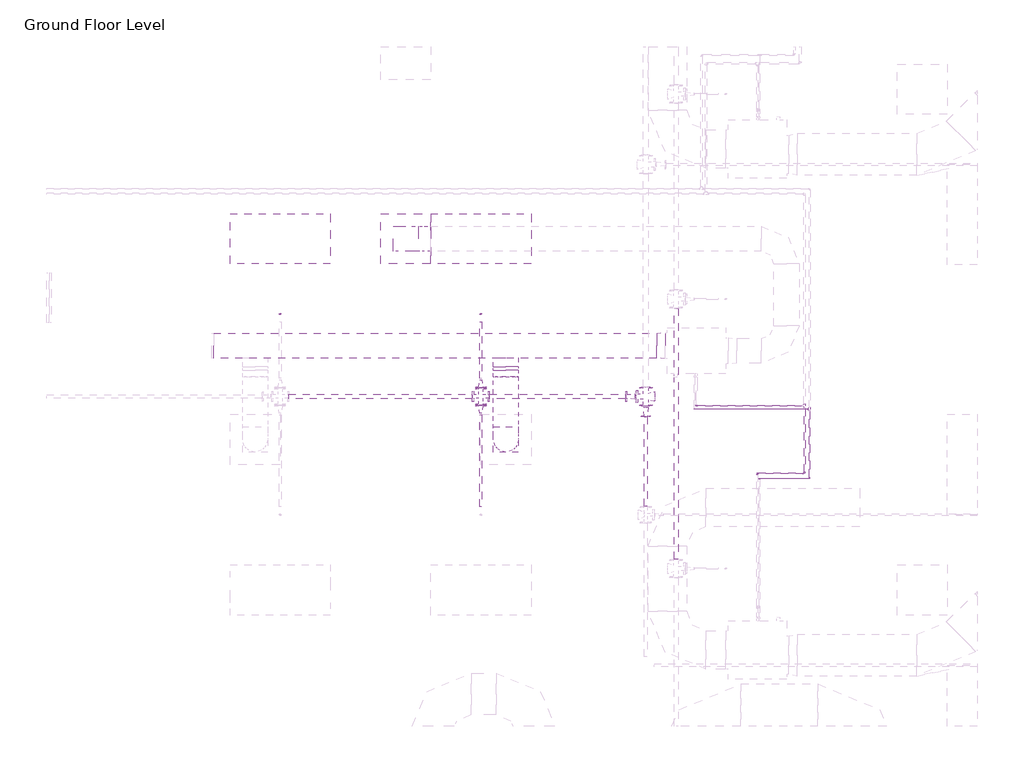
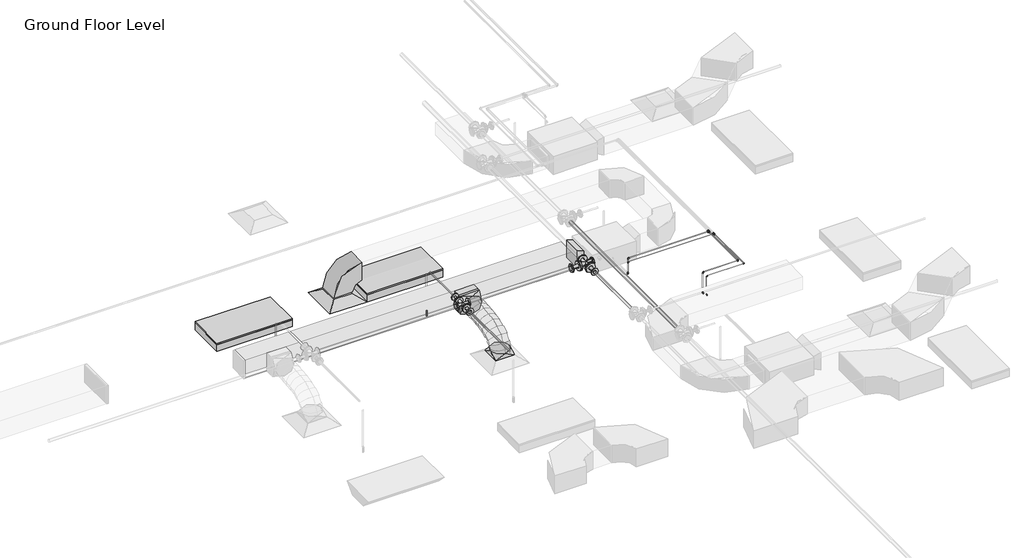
# One storey, part 35 of 74: 19 pipe fittings, 18 pipe segments, 5 duct fittings, 4 duct segments, 2 fire suppression terminals, 2 light fixtures, 1 air terminal.
"""IFC4 building model written with IfcOpenShell, lengths in millimetres."""

from ifc_helpers import new_model, si_unit, point, frame, frame_2d, origin, place, context, project, spatial, polyline, circle_curve, ellipse_curve, trimmed, segment, composite_curve, outline, extrude, transform, mapped, element, save
from ifc_brep_helpers import plane_surface, cylinder_surface, advanced_brep
from components import m_return_diffuser_600_x_600_face_300_x_300_connection_ff221211, m_rectangular_elbow_radius_1_w_618da153, m_rectangular_takeoff_standard_cb0ccb98, m_rectangular_transition_angle_45_degree_da897c11, m_rectangular_to_round_transition_angle_45_degree_641efff0, m_sprinkler_dry_pendent_hosted_15_mm_dry_pendent_9bda8e11, m_troffer_light_parabolic_rectangular1_0600x1200mm_4_lamp_86473d4a, m_cross_flanged_cs_class_150_standard_fc817054, m_elbow_generic_standard_a088f956, m_elbow_generic_standard_2a704253, m_reducer_flanged_cs_class_150_standard_3ab32b2b, m_reducer_flanged_cs_class_150_standard_a7631c35, m_reducer_flanged_cs_class_150_standard_dc68ad9d, m_tee_generic_standard_5b2ed4d4, m_tee_generic_standard_5078887e, m_tee_round_base_flanged_cs_class_150_standard_dd767e04, m_transition_generic_standard_bdcfe2c1

model = new_model("IFC4")

# Units and contexts
model_context = context("Model", 3, world=origin())
ifc_project = project(units=[si_unit("LENGTHUNIT", "METRE", prefix="MILLI")], contexts=[model_context])

# Site, building, storey
site = spatial("IfcSite", under=ifc_project)
building = spatial("IfcBuilding", under=site)
storey = spatial("IfcBuildingStorey", under=building, Name="Ground Floor Level", Elevation=900.0)

# Air terminal
placement = place(None, origin())
m_return_diffuser_600_x_600_face_300_x_300_connection_shape = m_return_diffuser_600_x_600_face_300_x_300_connection_ff221211(model_context)
element("IfcAirTerminal", 1, ObjectType="M_Return Diffuser : 600 x 600 Face 300 x 300 Connection", at=placement, inside=storey, context=model_context, shape_type="MappedRepresentation", body=[
    mapped(m_return_diffuser_600_x_600_face_300_x_300_connection_shape, transform((2762.7672395, -1064.7846466, 3650.0), x_axis=(1.0, 0.0, 0.0), y_axis=(0.0, 1.0, 0.0), z_axis=(0.0, 0.0, 1.0))),
])

# Duct fittings
m_rectangular_elbow_radius_1_w_shape = m_rectangular_elbow_radius_1_w_618da153(model_context)
element("IfcDuctFitting", 2, ObjectType="M_Rectangular Elbow - Radius : 1 W", at=placement, inside=storey, context=model_context, shape_type="MappedRepresentation", body=[
    mapped(m_rectangular_elbow_radius_1_w_shape, transform((2762.7672395, -1064.7846466, 4075.2874667), x_axis=(0.0, 0.0, 1.0), y_axis=(1.0, 0.0, 0.0), z_axis=(0.0, 1.0, 0.0))),
])
m_rectangular_takeoff_standard_shape = m_rectangular_takeoff_standard_cb0ccb98(model_context)
element("IfcDuctFitting", 3, ObjectType="M_Rectangular Takeoff : Standard", at=placement, inside=storey, context=model_context, shape_type="MappedRepresentation", body=[
    mapped(m_rectangular_takeoff_standard_shape, transform((3962.7672395, -2491.7438478, 4099.9957364), x_axis=(0.0, -1.0, 0.0), y_axis=(-1.0, 0.0, 0.0), z_axis=(0.0, 0.0, -1.0))),
])
m_rectangular_transition_angle_45_degree_shape = m_rectangular_transition_angle_45_degree_da897c11(model_context)
element("IfcDuctFitting", 4, ObjectType="M_Rectangular Transition - Angle : 45 Degree", at=placement, inside=storey, context=model_context, shape_type="MappedRepresentation", body=[
    mapped(m_rectangular_transition_angle_45_degree_shape, transform((5868.0139492, -2341.7438478, 4099.9999667), x_axis=(-1.0, 0.0, 0.0), y_axis=(0.0, -1.0, 0.0), z_axis=(0.0, 0.0, 1.0))),
])
m_rectangular_to_round_transition_angle_45_degree_shape = m_rectangular_to_round_transition_angle_45_degree_641efff0(model_context)
element("IfcDuctFitting", 5, ObjectType="M_Rectangular to Round Transition - Angle : 45 Degree", at=placement, inside=storey, context=model_context, shape_type="MappedRepresentation", body=[
    mapped(m_rectangular_to_round_transition_angle_45_degree_shape, transform((3962.7672395, -3464.7846466, 3751.6), x_axis=(0.0, 0.0, 1.0), y_axis=(-1.0, 0.0, 0.0), z_axis=(0.0, -1.0, 0.0))),
])
element("IfcDuctFitting", 6, ObjectType="M_Rectangular to Round Transition - Angle : 45 Degree", at=placement, inside=storey, context=model_context, shape_type="MappedRepresentation", body=[
    mapped(m_rectangular_to_round_transition_angle_45_degree_shape, transform((3962.7672395, -2637.4444518, 4099.9957364), x_axis=(0.0, -1.0, 0.0), y_axis=(1.0, 0.0, 0.0), z_axis=(0.0, 0.0, 1.0))),
])

# Duct segments
element("IfcDuctSegment", 7, ObjectType="Flex - Round", at=placement, inside=storey, context=model_context, shape_type="AdvancedBrep", body=[
    advanced_brep(
    [(4112.7672395, -3464.7846466, 3826.6), (3962.7672395, -3614.7846466, 3826.6), (3812.7672395, -3464.7846466, 3826.6), (3962.7672395, -3314.7846466, 3826.6), (4112.7672395, -3464.7846466, 3857.9378904), (3962.7672395, -3614.7846466, 3883.5813314), (3812.7672395, -3464.7846466, 3857.9378904), (3962.7672395, -3314.7846466, 3832.2944494), (4112.7672395, -3447.7685958, 3906.2506506), (3962.7672395, -3581.5063062, 3978.066738), (3812.7672395, -3447.7685958, 3906.2506506), (3962.7672395, -3314.0308854, 3834.4345631), (4112.7672395, -3400.5843936, 3968.711118), (3962.7672395, -3504.7895631, 4079.6211441), (3812.7672395, -3400.5843936, 3968.711118), (3962.7672395, -3296.3792241, 3857.8010918), (4112.7672395, -3329.0279651, 4016.0693364), (3962.7672395, -3397.9608708, 4150.3236185), (3812.7672395, -3329.0279651, 4016.0693364), (3962.7672395, -3260.0950595, 3881.8150544), (4112.7672395, -3238.8952355, 4050.4132402), (3962.7672395, -3282.4547417, 4194.3357259), (3812.7672395, -3238.8952355, 4050.4132402), (3962.7672395, -3195.3357294, 3906.4907544), (4112.7672395, -3135.98213, 4073.8307635), (3962.7672395, -3162.5418624, 4221.6214893), (3812.7672395, -3135.98213, 4073.8307635), (3962.7672395, -3109.4223976, 3926.0400376), (4112.7672395, -3026.0845737, 4088.4098405), (3962.7672395, -3041.2344403, 4237.7142061), (3812.7672395, -3026.0845737, 4088.4098405), (3962.7672395, -3010.934707, 3939.1054749), (4112.7672395, -2914.9984918, 4096.2384055), (3962.7672395, -2922.5030142, 4246.0815611), (3812.7672395, -2914.9984918, 4096.2384055), (3962.7672395, -2907.4939693, 3946.3952499), (4112.7672395, -2808.5198094, 4099.4043927), (3962.7672395, -2811.210829, 4249.3906708), (3812.7672395, -2808.5198094, 4099.4043927), (3962.7672395, -2805.8287898, 3949.4181147), (4112.7672395, -2712.4444518, 4099.9957364), (3962.7672395, -2711.5212194, 3949.9985777), (3812.7672395, -2712.4444518, 4099.9957364), (3962.7672395, -2713.3676841, 4249.9928952)],
    [
        (0, 1, circle_curve(frame((3962.7672395, -3464.7846466, 3826.6), z_axis=(0.0, 0.0, -1.0), x_axis=(1.0, 0.0, 0.0)), 150.0)),
        (1, 2, circle_curve(frame((3962.7672395, -3464.7846466, 3826.6), z_axis=(0.0, 0.0, -1.0), x_axis=(1.0, 0.0, 0.0)), 150.0)),
        (2, 3, circle_curve(frame((3962.7672395, -3464.7846466, 3826.6), z_axis=(0.0, 0.0, -1.0), x_axis=(1.0, 0.0, 0.0)), 150.0)),
        (3, 0, circle_curve(frame((3962.7672395, -3464.7846466, 3826.6), z_axis=(0.0, 0.0, -1.0), x_axis=(1.0, 0.0, 0.0)), 150.0)),
        (0, 4),
        (4, 5, ellipse_curve(frame((3962.7672395, -3464.7846466, 3857.9378904), z_axis=(0.0, -0.1685115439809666, -0.9856996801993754), x_axis=(0.0, 0.9856996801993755, -0.1685115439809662)), 152.1761679, 150.0)),
        (5, 1),
        (5, 6, ellipse_curve(frame((3962.7672395, -3464.7846466, 3857.9378904), z_axis=(0.0, -0.1685115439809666, -0.9856996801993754), x_axis=(0.0, 0.9856996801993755, -0.1685115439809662)), 152.1761679, 150.0)),
        (6, 2),
        (6, 7, ellipse_curve(frame((3962.7672395, -3464.7846466, 3857.9378904), z_axis=(0.0, -0.1685115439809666, -0.9856996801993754), x_axis=(0.0, 0.9856996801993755, -0.1685115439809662)), 152.1761679, 150.0)),
        (7, 3),
        (7, 4, ellipse_curve(frame((3962.7672395, -3464.7846466, 3857.9378904), z_axis=(0.0, -0.1685115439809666, -0.9856996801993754), x_axis=(0.0, 0.9856996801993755, -0.1685115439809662)), 152.1761679, 150.0)),
        (4, 8),
        (8, 9, ellipse_curve(frame((3962.7672395, -3447.7685958, 3906.2506506), z_axis=(0.0, -0.4730958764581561, -0.8810109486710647), x_axis=(0.0, 0.8810109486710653, -0.4730958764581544)), 151.800282, 150.0)),
        (9, 5),
        (9, 10, ellipse_curve(frame((3962.7672395, -3447.7685958, 3906.2506506), z_axis=(0.0, -0.4730958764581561, -0.8810109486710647), x_axis=(0.0, 0.8810109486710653, -0.4730958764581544)), 151.800282, 150.0)),
        (10, 6),
        (10, 11, ellipse_curve(frame((3962.7672395, -3447.7685958, 3906.2506506), z_axis=(0.0, -0.4730958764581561, -0.8810109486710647), x_axis=(0.0, 0.8810109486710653, -0.4730958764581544)), 151.800282, 150.0)),
        (11, 7),
        (11, 8, ellipse_curve(frame((3962.7672395, -3447.7685958, 3906.2506506), z_axis=(0.0, -0.4730958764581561, -0.8810109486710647), x_axis=(0.0, 0.8810109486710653, -0.4730958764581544)), 151.800282, 150.0)),
        (8, 12),
        (12, 13, ellipse_curve(frame((3962.7672395, -3400.5843936, 3968.711118), z_axis=(0.0, -0.7287924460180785, -0.6847346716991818), x_axis=(0.0, 0.6847346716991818, -0.7287924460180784)), 152.1832818, 150.0)),
        (13, 9),
        (13, 14, ellipse_curve(frame((3962.7672395, -3400.5843936, 3968.711118), z_axis=(0.0, -0.7287924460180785, -0.6847346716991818), x_axis=(0.0, 0.6847346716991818, -0.7287924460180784)), 152.1832818, 150.0)),
        (14, 10),
        (14, 15, ellipse_curve(frame((3962.7672395, -3400.5843936, 3968.711118), z_axis=(0.0, -0.7287924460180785, -0.6847346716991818), x_axis=(0.0, 0.6847346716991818, -0.7287924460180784)), 152.1832818, 150.0)),
        (15, 11),
        (15, 12, ellipse_curve(frame((3962.7672395, -3400.5843936, 3968.711118), z_axis=(0.0, -0.7287924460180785, -0.6847346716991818), x_axis=(0.0, 0.6847346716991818, -0.7287924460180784)), 152.1832818, 150.0)),
        (12, 16),
        (16, 17, ellipse_curve(frame((3962.7672395, -3329.0279651, 4016.0693364), z_axis=(0.0, -0.8895898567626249, -0.45676020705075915), x_axis=(0.0, 0.45676020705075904, -0.889589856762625)), 150.9170558, 150.0)),
        (17, 13),
        (17, 18, ellipse_curve(frame((3962.7672395, -3329.0279651, 4016.0693364), z_axis=(0.0, -0.8895898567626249, -0.45676020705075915), x_axis=(0.0, 0.45676020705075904, -0.889589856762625)), 150.9170558, 150.0)),
        (18, 14),
        (18, 19, ellipse_curve(frame((3962.7672395, -3329.0279651, 4016.0693364), z_axis=(0.0, -0.8895898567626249, -0.45676020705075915), x_axis=(0.0, 0.45676020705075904, -0.889589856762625)), 150.9170558, 150.0)),
        (19, 15),
        (19, 16, ellipse_curve(frame((3962.7672395, -3329.0279651, 4016.0693364), z_axis=(0.0, -0.8895898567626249, -0.45676020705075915), x_axis=(0.0, 0.45676020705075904, -0.889589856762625)), 150.9170558, 150.0)),
        (16, 20),
        (20, 21, ellipse_curve(frame((3962.7672395, -3238.8952355, 4050.4132402), z_axis=(0.0, -0.9571228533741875, -0.2896823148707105), x_axis=(0.0, 0.28968231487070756, -0.9571228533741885)), 150.3699188, 150.0)),
        (21, 17),
        (21, 22, ellipse_curve(frame((3962.7672395, -3238.8952355, 4050.4132402), z_axis=(0.0, -0.9571228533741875, -0.2896823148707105), x_axis=(0.0, 0.28968231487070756, -0.9571228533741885)), 150.3699188, 150.0)),
        (22, 18),
        (22, 23, ellipse_curve(frame((3962.7672395, -3238.8952355, 4050.4132402), z_axis=(0.0, -0.9571228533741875, -0.2896823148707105), x_axis=(0.0, 0.28968231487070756, -0.9571228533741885)), 150.3699188, 150.0)),
        (23, 19),
        (23, 20, ellipse_curve(frame((3962.7672395, -3238.8952355, 4050.4132402), z_axis=(0.0, -0.9571228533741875, -0.2896823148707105), x_axis=(0.0, 0.28968231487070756, -0.9571228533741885)), 150.3699188, 150.0)),
        (20, 24),
        (24, 25, ellipse_curve(frame((3962.7672395, -3135.98213, 4073.8307635), z_axis=(0.0, -0.984232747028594, -0.1768782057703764), x_axis=(0.0, 0.17687820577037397, -0.9842327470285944)), 150.1583099, 150.0)),
        (25, 21),
        (25, 26, ellipse_curve(frame((3962.7672395, -3135.98213, 4073.8307635), z_axis=(0.0, -0.984232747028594, -0.1768782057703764), x_axis=(0.0, 0.17687820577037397, -0.9842327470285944)), 150.1583099, 150.0)),
        (26, 22),
        (26, 27, ellipse_curve(frame((3962.7672395, -3135.98213, 4073.8307635), z_axis=(0.0, -0.984232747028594, -0.1768782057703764), x_axis=(0.0, 0.17687820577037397, -0.9842327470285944)), 150.1583099, 150.0)),
        (27, 23),
        (27, 24, ellipse_curve(frame((3962.7672395, -3135.98213, 4073.8307635), z_axis=(0.0, -0.984232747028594, -0.1768782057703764), x_axis=(0.0, 0.17687820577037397, -0.9842327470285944)), 150.1583099, 150.0)),
        (24, 28),
        (28, 29, ellipse_curve(frame((3962.7672395, -3026.0845737, 4088.4098405), z_axis=(0.0, -0.9948913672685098, -0.10095131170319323), x_axis=(0.0, 0.10095131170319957, -0.994891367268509)), 150.0710233, 150.0)),
        (29, 25),
        (29, 30, ellipse_curve(frame((3962.7672395, -3026.0845737, 4088.4098405), z_axis=(0.0, -0.9948913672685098, -0.10095131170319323), x_axis=(0.0, 0.10095131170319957, -0.994891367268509)), 150.0710233, 150.0)),
        (30, 26),
        (30, 31, ellipse_curve(frame((3962.7672395, -3026.0845737, 4088.4098405), z_axis=(0.0, -0.9948913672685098, -0.10095131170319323), x_axis=(0.0, 0.10095131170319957, -0.994891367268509)), 150.0710233, 150.0)),
        (31, 27),
        (31, 28, ellipse_curve(frame((3962.7672395, -3026.0845737, 4088.4098405), z_axis=(0.0, -0.9948913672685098, -0.10095131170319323), x_axis=(0.0, 0.10095131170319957, -0.994891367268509)), 150.0710233, 150.0)),
        (28, 32),
        (32, 33, ellipse_curve(frame((3962.7672395, -2914.9984918, 4096.2384055), z_axis=(0.0, -0.9987482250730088, -0.050019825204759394), x_axis=(0.0, 0.05001982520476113, -0.9987482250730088)), 150.0309606, 150.0)),
        (33, 29),
        (33, 34, ellipse_curve(frame((3962.7672395, -2914.9984918, 4096.2384055), z_axis=(0.0, -0.9987482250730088, -0.050019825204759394), x_axis=(0.0, 0.05001982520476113, -0.9987482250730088)), 150.0309606, 150.0)),
        (34, 30),
        (34, 35, ellipse_curve(frame((3962.7672395, -2914.9984918, 4096.2384055), z_axis=(0.0, -0.9987482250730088, -0.050019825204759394), x_axis=(0.0, 0.05001982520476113, -0.9987482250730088)), 150.0309606, 150.0)),
        (35, 31),
        (35, 32, ellipse_curve(frame((3962.7672395, -2914.9984918, 4096.2384055), z_axis=(0.0, -0.9987482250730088, -0.050019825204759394), x_axis=(0.0, 0.05001982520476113, -0.9987482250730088)), 150.0309606, 150.0)),
        (32, 36),
        (36, 37, ellipse_curve(frame((3962.7672395, -2808.5198094, 4099.4043927), z_axis=(0.0, -0.9998390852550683, -0.01793888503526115), x_axis=(0.0, 0.017938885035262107, -0.9998390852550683)), 150.0104169, 150.0)),
        (37, 33),
        (37, 38, ellipse_curve(frame((3962.7672395, -2808.5198094, 4099.4043927), z_axis=(0.0, -0.9998390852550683, -0.01793888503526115), x_axis=(0.0, 0.017938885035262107, -0.9998390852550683)), 150.0104169, 150.0)),
        (38, 34),
        (38, 39, ellipse_curve(frame((3962.7672395, -2808.5198094, 4099.4043927), z_axis=(0.0, -0.9998390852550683, -0.01793888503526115), x_axis=(0.0, 0.017938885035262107, -0.9998390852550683)), 150.0104169, 150.0)),
        (39, 35),
        (39, 36, ellipse_curve(frame((3962.7672395, -2808.5198094, 4099.4043927), z_axis=(0.0, -0.9998390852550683, -0.01793888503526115), x_axis=(0.0, 0.017938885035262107, -0.9998390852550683)), 150.0104169, 150.0)),
        (40, 41, circle_curve(frame((3962.7672395, -2712.4444518, 4099.9957364), z_axis=(0.0, 0.9999810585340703, 0.006154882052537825), x_axis=(1.0, 0.0, 0.0)), 150.0)),
        (41, 42, circle_curve(frame((3962.7672395, -2712.4444518, 4099.9957364), z_axis=(0.0, 0.9999810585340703, 0.006154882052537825), x_axis=(1.0, 0.0, 0.0)), 150.0)),
        (42, 43, circle_curve(frame((3962.7672395, -2712.4444518, 4099.9957364), z_axis=(0.0, 0.9999810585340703, 0.006154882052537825), x_axis=(1.0, 0.0, 0.0)), 150.0)),
        (43, 40, circle_curve(frame((3962.7672395, -2712.4444518, 4099.9957364), z_axis=(0.0, 0.9999810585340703, 0.006154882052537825), x_axis=(1.0, 0.0, 0.0)), 150.0)),
        (36, 40),
        (43, 37),
        (42, 38),
        (41, 39),
    ],
    [
        plane_surface(frame((3962.7672395, -3614.7846466, 3826.6), z_axis=(0.0, 0.0, -1.0), x_axis=(1.0, 0.0, 0.0))),
        cylinder_surface(frame((3962.7672395, -3464.7846466, 3826.6), z_axis=(0.0, 0.0, -1.0), x_axis=(1.0, 0.0, 0.0)), 150.0),
        cylinder_surface(frame((3962.7672395, -3464.7846466, 3857.9378904), z_axis=(0.0, -0.3322035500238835, -0.9432077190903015), x_axis=(1.0, 0.0, 0.0)), 150.0),
        cylinder_surface(frame((3962.7672395, -3447.7685958, 3906.2506506), z_axis=(0.0, -0.6027668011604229, -0.7979174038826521), x_axis=(1.0, 0.0, 0.0)), 150.0),
        cylinder_surface(frame((3962.7672395, -3400.5843936, 3968.711118), z_axis=(0.0, -0.8339069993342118, -0.5519049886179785), x_axis=(1.0, 0.0, 0.0)), 150.0),
        cylinder_surface(frame((3962.7672395, -3329.0279651, 4016.0693364), z_axis=(0.0, -0.9344614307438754, -0.35606436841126), x_axis=(1.0, 0.0, 0.0)), 150.0),
        cylinder_surface(frame((3962.7672395, -3238.8952355, 4050.4132402), z_axis=(0.0, -0.9750751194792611, -0.22187499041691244), x_axis=(1.0, 0.0, 0.0)), 150.0),
        cylinder_surface(frame((3962.7672395, -3135.98213, 4073.8307635), z_axis=(0.0, -0.9913150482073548, -0.1315084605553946), x_axis=(1.0, 0.0, 0.0)), 150.0),
        cylinder_surface(frame((3962.7672395, -3026.0845737, 4088.4098405), z_axis=(0.0, -0.9975259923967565, -0.07029860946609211), x_axis=(1.0, 0.0, 0.0)), 150.0),
        cylinder_surface(frame((3962.7672395, -2914.9984918, 4096.2384055), z_axis=(0.0, -0.9995582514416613, -0.029720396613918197), x_axis=(1.0, 0.0, 0.0)), 150.0),
        plane_surface(frame((3962.7672395, -2713.3676841, 4249.9928952), z_axis=(0.0, 0.9999810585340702, 0.006154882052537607), x_axis=(1.0, 0.0, 0.0))),
        cylinder_surface(frame((3962.7672395, -2808.5198094, 4099.4043927), z_axis=(0.0, -0.9999810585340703, -0.006154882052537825), x_axis=(1.0, 0.0, 0.0)), 150.0),
    ],
    [
        (0, [[1, 2, 3, 4]]),
        (1, [[-1, 5, 6, 7]]),
        (1, [[-2, -7, 8, 9]]),
        (1, [[-3, -9, 10, 11]]),
        (1, [[-4, -11, 12, -5]]),
        (2, [[-6, 13, 14, 15]]),
        (2, [[-8, -15, 16, 17]]),
        (2, [[-10, -17, 18, 19]]),
        (2, [[-12, -19, 20, -13]]),
        (3, [[-14, 21, 22, 23]]),
        (3, [[-16, -23, 24, 25]]),
        (3, [[-18, -25, 26, 27]]),
        (3, [[-20, -27, 28, -21]]),
        (4, [[-22, 29, 30, 31]]),
        (4, [[-24, -31, 32, 33]]),
        (4, [[-26, -33, 34, 35]]),
        (4, [[-28, -35, 36, -29]]),
        (5, [[-30, 37, 38, 39]]),
        (5, [[-32, -39, 40, 41]]),
        (5, [[-34, -41, 42, 43]]),
        (5, [[-36, -43, 44, -37]]),
        (6, [[-38, 45, 46, 47]]),
        (6, [[-40, -47, 48, 49]]),
        (6, [[-42, -49, 50, 51]]),
        (6, [[-44, -51, 52, -45]]),
        (7, [[-46, 53, 54, 55]]),
        (7, [[-48, -55, 56, 57]]),
        (7, [[-50, -57, 58, 59]]),
        (7, [[-52, -59, 60, -53]]),
        (8, [[-54, 61, 62, 63]]),
        (8, [[-56, -63, 64, 65]]),
        (8, [[-58, -65, 66, 67]]),
        (8, [[-60, -67, 68, -61]]),
        (9, [[-62, 69, 70, 71]]),
        (9, [[-64, -71, 72, 73]]),
        (9, [[-66, -73, 74, 75]]),
        (9, [[-68, -75, 76, -69]]),
        (10, [[77, 78, 79, 80]]),
        (11, [[-70, 81, -80, 82]]),
        (11, [[-72, -82, -79, 83]]),
        (11, [[-74, -83, -78, 84]]),
        (11, [[-76, -84, -77, -81]]),
    ],
),
])
element("IfcDuctSegment", 8, ObjectType="Radius Elbows / Taps", at=placement, inside=storey, context=model_context, shape_type="SweptSolid", body=[
    extrude(outline(polyline([(2912.7672395, -914.7846466), (2912.7672395, -1214.7846466), (2612.7672395, -1214.7846466), (2612.7672395, -914.7846466), (2912.7672395, -914.7846466)])), frame((0.0, 0.0, 3751.6), z_axis=(0.0, 0.0, 1.0), x_axis=(1.0, 0.0, 0.0)), (0.0, 0.0, 1.0), 23.6874667),
])
element("IfcDuctSegment", 9, ObjectType="Radius Elbows / Taps", at=placement, inside=storey, context=model_context, shape_type="SweptSolid", body=[
    extrude(outline(polyline([(0.0, -300.0), (0.0, 0.0), (5296.5207712, 0.0), (5296.5207712, -300.0), (0.0, -300.0)])), frame((5764.5350754, -2491.7438478, 3950.0), z_axis=(-2.366321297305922e-06, 0.0, 0.9999999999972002), x_axis=(-0.9999999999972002, 0.0, -2.366321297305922e-06)), (0.0, 0.0, 1.0), 300.0),
])
element("IfcDuctSegment", 10, ObjectType="Radius Elbows / Taps", at=placement, inside=storey, context=model_context, shape_type="SweptSolid", body=[
    extrude(outline(polyline([(3812.7672395, -2593.3438478), (4112.7672395, -2593.3438478), (4112.7672395, -2637.4444518), (3812.7672395, -2637.4444518), (3812.7672395, -2593.3438478)])), frame((0.0, 0.0, 3949.9957364), z_axis=(0.0, 0.0, 1.0), x_axis=(1.0, 0.0, 0.0)), (0.0, 0.0, 1.0), 300.0),
])

# Fire suppression terminals
m_sprinkler_dry_pendent_hosted_15_mm_dry_pendent_shape = m_sprinkler_dry_pendent_hosted_15_mm_dry_pendent_9bda8e11(model_context)
element("IfcFireSuppressionTerminal", 11, ObjectType="M_Sprinkler - Dry - Pendent - Hosted : 15 mm Dry Pendent", at=placement, inside=storey, context=model_context, shape_type="MappedRepresentation", body=[
    mapped(m_sprinkler_dry_pendent_hosted_15_mm_dry_pendent_shape, transform((1262.7672395, -1964.7846466, 3650.0), x_axis=(1.0, 0.0, 0.0), y_axis=(0.0, -1.0, 0.0), z_axis=(0.0, 0.0, -1.0))),
])
element("IfcFireSuppressionTerminal", 12, ObjectType="M_Sprinkler - Dry - Pendent - Hosted : 15 mm Dry Pendent", at=placement, inside=storey, context=model_context, shape_type="MappedRepresentation", body=[
    mapped(m_sprinkler_dry_pendent_hosted_15_mm_dry_pendent_shape, transform((3662.7672395, -1964.7846466, 3650.0), x_axis=(1.0, 0.0, 0.0), y_axis=(0.0, -1.0, 0.0), z_axis=(0.0, 0.0, -1.0))),
])

# Light fixtures
m_troffer_light_parabolic_rectangular1_0600x1200mm_4_lamp_shape = m_troffer_light_parabolic_rectangular1_0600x1200mm_4_lamp_86473d4a(model_context)
element("IfcLightFixture", 13, ObjectType="M_Troffer Light - Parabolic Rectangular1 : 0600x1200mm(4 Lamp) - 277V 2", at=placement, inside=storey, context=model_context, shape_type="MappedRepresentation", body=[
    mapped(m_troffer_light_parabolic_rectangular1_0600x1200mm_4_lamp_shape, transform((3681.4707411, -1005.3187145, 3650.0), x_axis=(1.0, 0.0, 0.0), y_axis=(0.0, 1.0, 0.0), z_axis=(0.0, 0.0, 1.0))),
])
element("IfcLightFixture", 14, ObjectType="M_Troffer Light - Parabolic Rectangular1 : 0600x1200mm(4 Lamp) - 277V 2", at=placement, inside=storey, context=model_context, shape_type="MappedRepresentation", body=[
    mapped(m_troffer_light_parabolic_rectangular1_0600x1200mm_4_lamp_shape, transform((1281.4707411, -1005.3187145, 3650.0), x_axis=(1.0, 0.0, 0.0), y_axis=(0.0, 1.0, 0.0), z_axis=(0.0, 0.0, 1.0))),
])

# Pipe fittings
m_cross_flanged_cs_class_150_standard_shape = m_cross_flanged_cs_class_150_standard_fc817054(model_context)
element("IfcPipeFitting", 15, ObjectType="M_Cross - Flanged - CS - Class 150 : Standard", at=placement, inside=storey, context=model_context, shape_type="MappedRepresentation", body=[
    mapped(m_cross_flanged_cs_class_150_standard_shape, transform((3662.7672395, -2950.3491993, 4360.0), x_axis=(1.0, 0.0, 0.0), y_axis=(0.0, -1.0, 0.0), z_axis=(0.0, 0.0, -1.0))),
])
m_elbow_generic_standard_shape = m_elbow_generic_standard_a088f956(model_context)
element("IfcPipeFitting", 16, ObjectType="M_Elbow - Generic : Standard", at=placement, inside=storey, context=model_context, shape_type="MappedRepresentation", body=[
    mapped(m_elbow_generic_standard_shape, transform((7534.4307053, -3869.9099051, 4300.0), x_axis=(1.0, 0.0, 0.0), y_axis=(0.0, 1.0, 0.0), z_axis=(0.0, 0.0, 1.0))),
])
element("IfcPipeFitting", 17, ObjectType="M_Elbow - Generic : Standard", at=placement, inside=storey, context=model_context, shape_type="MappedRepresentation", body=[
    mapped(m_elbow_generic_standard_shape, transform((6968.8139492, -3869.9099051, 4300.0), x_axis=(-1.0, 0.0, 0.0), y_axis=(0.0, 0.0, -1.0), z_axis=(0.0, -1.0, 0.0))),
])
element("IfcPipeFitting", 18, ObjectType="M_Elbow - Generic : Standard", at=placement, inside=storey, context=model_context, shape_type="MappedRepresentation", body=[
    mapped(m_elbow_generic_standard_shape, transform((6243.4139492, -3060.5124002, 4034.0874667), x_axis=(0.0, -1.0, 0.0), y_axis=(0.0, 0.0, 1.0), z_axis=(-1.0, 0.0, 0.0))),
])
element("IfcPipeFitting", 19, ObjectType="M_Elbow - Generic : Standard", at=placement, inside=storey, context=model_context, shape_type="MappedRepresentation", body=[
    mapped(m_elbow_generic_standard_shape, transform((6243.4139492, -3060.5124002, 4300.0), x_axis=(0.0, 0.0, 1.0), y_axis=(1.0, 0.0, 0.0), z_axis=(0.0, 1.0, 0.0))),
])
element("IfcPipeFitting", 20, ObjectType="M_Elbow - Generic : Standard", at=placement, inside=storey, context=model_context, shape_type="MappedRepresentation", body=[
    mapped(m_elbow_generic_standard_shape, transform((6968.8139492, -3869.9099051, 3950.0), x_axis=(0.0, 0.0, -1.0), y_axis=(0.0, -1.0, 0.0), z_axis=(-1.0, 0.0, 0.0))),
])
m_elbow_generic_standard_2_shape = m_elbow_generic_standard_2a704253(model_context)
element("IfcPipeFitting", 21, ObjectType="M_Elbow - Generic : Standard", at=placement, inside=storey, context=model_context, shape_type="MappedRepresentation", body=[
    mapped(m_elbow_generic_standard_2_shape, transform((7594.4307053, -3931.9012458, 4265.0), x_axis=(1.0, 0.0, 0.0), y_axis=(0.0, 1.0, 0.0), z_axis=(0.0, 0.0, 1.0))),
])
element("IfcPipeFitting", 22, ObjectType="M_Elbow - Generic : Standard", at=placement, inside=storey, context=model_context, shape_type="MappedRepresentation", body=[
    mapped(m_elbow_generic_standard_2_shape, transform((6993.8139492, -3931.9012458, 4265.0), x_axis=(-1.0, 0.0, 0.0), y_axis=(0.0, 0.0, -1.0), z_axis=(0.0, -1.0, 0.0))),
])
element("IfcPipeFitting", 23, ObjectType="M_Elbow - Generic : Standard", at=placement, inside=storey, context=model_context, shape_type="MappedRepresentation", body=[
    mapped(m_elbow_generic_standard_2_shape, transform((6218.4139492, -3100.3969173, 4084.8874667), x_axis=(0.0, -1.0, 0.0), y_axis=(0.0, 0.0, 1.0), z_axis=(-1.0, 0.0, 0.0))),
])
element("IfcPipeFitting", 24, ObjectType="M_Elbow - Generic : Standard", at=placement, inside=storey, context=model_context, shape_type="MappedRepresentation", body=[
    mapped(m_elbow_generic_standard_2_shape, transform((6218.4139492, -3100.3969173, 4265.0), x_axis=(0.0, 0.0, 1.0), y_axis=(1.0, 0.0, 0.0), z_axis=(0.0, 1.0, 0.0))),
])
element("IfcPipeFitting", 25, ObjectType="M_Elbow - Generic : Standard", at=placement, inside=storey, context=model_context, shape_type="MappedRepresentation", body=[
    mapped(m_elbow_generic_standard_2_shape, transform((6993.8139492, -3931.9012458, 3950.0), x_axis=(0.0, 0.0, -1.0), y_axis=(0.0, -1.0, 0.0), z_axis=(-1.0, 0.0, 0.0))),
])
m_reducer_flanged_cs_class_150_standard_shape = m_reducer_flanged_cs_class_150_standard_3ab32b2b(model_context)
element("IfcPipeFitting", 26, ObjectType="M_Reducer - Flanged - CS - Class 150 : Standard", at=placement, inside=storey, context=model_context, shape_type="MappedRepresentation", body=[
    mapped(m_reducer_flanged_cs_class_150_standard_shape, transform((5521.869498, -2950.3491993, 4360.0), x_axis=(-1.0, 0.0, 0.0), y_axis=(0.0, -1.0, 0.0), z_axis=(0.0, 0.0, 1.0))),
])
m_reducer_flanged_cs_class_150_standard_2_shape = m_reducer_flanged_cs_class_150_standard_a7631c35(model_context)
element("IfcPipeFitting", 27, ObjectType="M_Reducer - Flanged - CS - Class 150 : Standard", at=placement, inside=storey, context=model_context, shape_type="MappedRepresentation", body=[
    mapped(m_reducer_flanged_cs_class_150_standard_2_shape, transform((5635.869498, -3064.3491993, 4360.0), x_axis=(0.0, -1.0, 0.0), y_axis=(1.0, 0.0, 0.0), z_axis=(0.0, 0.0, 1.0))),
])
m_reducer_flanged_cs_class_150_standard_3_shape = m_reducer_flanged_cs_class_150_standard_dc68ad9d(model_context)
element("IfcPipeFitting", 28, ObjectType="M_Reducer - Flanged - CS - Class 150 : Standard", at=placement, inside=storey, context=model_context, shape_type="MappedRepresentation", body=[
    mapped(m_reducer_flanged_cs_class_150_standard_3_shape, transform((3662.7672395, -2848.3491993, 4360.0), x_axis=(0.0, 1.0, 0.0), y_axis=(-1.0, 0.0, 0.0), z_axis=(0.0, 0.0, 1.0))),
])
element("IfcPipeFitting", 29, ObjectType="M_Reducer - Flanged - CS - Class 150 : Standard", at=placement, inside=storey, context=model_context, shape_type="MappedRepresentation", body=[
    mapped(m_reducer_flanged_cs_class_150_standard_3_shape, transform((3662.7672395, -3052.3491993, 4360.0), x_axis=(0.0, -1.0, 0.0), y_axis=(1.0, 0.0, 0.0), z_axis=(0.0, 0.0, 1.0))),
])
m_tee_generic_standard_shape = m_tee_generic_standard_5b2ed4d4(model_context)
element("IfcPipeFitting", 30, ObjectType="M_Tee - Generic : Standard", at=placement, inside=storey, context=model_context, shape_type="MappedRepresentation", body=[
    mapped(m_tee_generic_standard_shape, transform((7594.4307053, -3100.3969173, 4265.0), x_axis=(0.0, 1.0, 0.0), y_axis=(1.0, 0.0, 0.0), z_axis=(0.0, 0.0, -1.0))),
])
m_tee_generic_standard_2_shape = m_tee_generic_standard_5078887e(model_context)
element("IfcPipeFitting", 31, ObjectType="M_Tee - Generic : Standard", at=placement, inside=storey, context=model_context, shape_type="MappedRepresentation", body=[
    mapped(m_tee_generic_standard_2_shape, transform((7534.4307053, -3060.5124002, 4300.0), x_axis=(0.0, 1.0, 0.0), y_axis=(1.0, 0.0, 0.0), z_axis=(0.0, 0.0, -1.0))),
])
m_tee_round_base_flanged_cs_class_150_standard_shape = m_tee_round_base_flanged_cs_class_150_standard_dd767e04(model_context)
element("IfcPipeFitting", 32, ObjectType="M_Tee Round Base - Flanged - CS - Class 150 : Standard", at=placement, inside=storey, context=model_context, shape_type="MappedRepresentation", body=[
    mapped(m_tee_round_base_flanged_cs_class_150_standard_shape, transform((5635.869498, -2950.3491993, 4360.0), x_axis=(0.0, 1.0, 0.0), y_axis=(1.0, 0.0, 0.0), z_axis=(0.0, 0.0, -1.0))),
])
m_transition_generic_standard_shape = m_transition_generic_standard_bdcfe2c1(model_context)
element("IfcPipeFitting", 33, ObjectType="M_Transition - Generic : Standard", at=placement, inside=storey, context=model_context, shape_type="MappedRepresentation", body=[
    mapped(m_transition_generic_standard_shape, transform((7573.7932053, -3100.3969173, 4265.0), x_axis=(-1.0, 0.0, 0.0), y_axis=(0.0, -1.0, 0.0), z_axis=(0.0, 0.0, 1.0))),
])

# Pipe segments
element("IfcPipeSegment", 34, ObjectType="Copper", at=placement, inside=storey, context=model_context, shape_type="SweptSolid", body=[
    extrude(outline(composite_curve([segment(trimmed(circle_curve(frame_2d((-3931.9012458, 4265.0)), 3.35), [point((-3928.5512458, 4265.0))], [point((-3931.9012458, 4261.65))], False, "CARTESIAN"), True, "CONTINUOUS"), segment(trimmed(circle_curve(frame_2d((-3931.9012458, 4265.0)), 3.35), [point((-3931.9012458, 4261.65))], [point((-3935.2512458, 4265.0))], False, "CARTESIAN"), True, "CONTINUOUS"), segment(trimmed(circle_curve(frame_2d((-3931.9012458, 4265.0)), 3.35), [point((-3935.2512458, 4265.0))], [point((-3931.9012458, 4268.35))], False, "CARTESIAN"), True, "CONTINUOUS"), segment(trimmed(circle_curve(frame_2d((-3931.9012458, 4265.0)), 3.35), [point((-3931.9012458, 4268.35))], [point((-3928.5512458, 4265.0))], False, "CARTESIAN"), True, "CONTINUOUS")], self_intersect=False)), frame((7004.9514492, 0.0, 0.0), z_axis=(1.0, 0.0, 0.0), x_axis=(0.0, 1.0, 0.0)), (0.0, 0.0, 1.0), 578.341756),
])
element("IfcPipeSegment", 35, ObjectType="Copper", at=placement, inside=storey, context=model_context, shape_type="SweptSolid", body=[
    extrude(outline(composite_curve([segment(trimmed(circle_curve(frame_2d((-3869.9099051, 4300.0)), 6.5), [point((-3863.4099051, 4300.0))], [point((-3869.9099051, 4293.5))], False, "CARTESIAN"), True, "CONTINUOUS"), segment(trimmed(circle_curve(frame_2d((-3869.9099051, 4300.0)), 6.5), [point((-3869.9099051, 4293.5))], [point((-3876.4099051, 4300.0))], False, "CARTESIAN"), True, "CONTINUOUS"), segment(trimmed(circle_curve(frame_2d((-3869.9099051, 4300.0)), 6.5), [point((-3876.4099051, 4300.0))], [point((-3869.9099051, 4306.5))], False, "CARTESIAN"), True, "CONTINUOUS"), segment(trimmed(circle_curve(frame_2d((-3869.9099051, 4300.0)), 6.5), [point((-3869.9099051, 4306.5))], [point((-3863.4099051, 4300.0))], False, "CARTESIAN"), True, "CONTINUOUS")], self_intersect=False)), frame((6983.1014492, 0.0, 0.0), z_axis=(1.0, 0.0, 0.0), x_axis=(0.0, 1.0, 0.0)), (0.0, 0.0, 1.0), 537.041756),
])
element("IfcPipeSegment", 36, ObjectType="Copper", at=placement, inside=storey, context=model_context, shape_type="SweptSolid", body=[
    extrude(outline(composite_curve([segment(trimmed(circle_curve(frame_2d((6993.8139492, -3931.9012458)), 3.35), [point((6997.1639492, -3931.9012458))], [point((6993.8139492, -3935.2512458))], False, "CARTESIAN"), True, "CONTINUOUS"), segment(trimmed(circle_curve(frame_2d((6993.8139492, -3931.9012458)), 3.35), [point((6993.8139492, -3935.2512458))], [point((6990.4639492, -3931.9012458))], False, "CARTESIAN"), True, "CONTINUOUS"), segment(trimmed(circle_curve(frame_2d((6993.8139492, -3931.9012458)), 3.35), [point((6990.4639492, -3931.9012458))], [point((6993.8139492, -3928.5512458))], False, "CARTESIAN"), True, "CONTINUOUS"), segment(trimmed(circle_curve(frame_2d((6993.8139492, -3931.9012458)), 3.35), [point((6993.8139492, -3928.5512458))], [point((6997.1639492, -3931.9012458))], False, "CARTESIAN"), True, "CONTINUOUS")], self_intersect=False)), frame((0.0, 0.0, 3961.1375), z_axis=(0.0, 0.0, 1.0), x_axis=(1.0, 0.0, 0.0)), (0.0, 0.0, 1.0), 292.725),
])
element("IfcPipeSegment", 37, ObjectType="Copper", at=placement, inside=storey, context=model_context, shape_type="SweptSolid", body=[
    extrude(outline(composite_curve([segment(trimmed(circle_curve(frame_2d((6968.8139492, -3869.9099051)), 6.5), [point((6975.3139492, -3869.9099051))], [point((6968.8139492, -3876.4099051))], False, "CARTESIAN"), True, "CONTINUOUS"), segment(trimmed(circle_curve(frame_2d((6968.8139492, -3869.9099051)), 6.5), [point((6968.8139492, -3876.4099051))], [point((6962.3139492, -3869.9099051))], False, "CARTESIAN"), True, "CONTINUOUS"), segment(trimmed(circle_curve(frame_2d((6968.8139492, -3869.9099051)), 6.5), [point((6962.3139492, -3869.9099051))], [point((6968.8139492, -3863.4099051))], False, "CARTESIAN"), True, "CONTINUOUS"), segment(trimmed(circle_curve(frame_2d((6968.8139492, -3869.9099051)), 6.5), [point((6968.8139492, -3863.4099051))], [point((6975.3139492, -3869.9099051))], False, "CARTESIAN"), True, "CONTINUOUS")], self_intersect=False)), frame((0.0, 0.0, 3964.2875), z_axis=(0.0, 0.0, 1.0), x_axis=(1.0, 0.0, 0.0)), (0.0, 0.0, 1.0), 321.425),
])
element("IfcPipeSegment", 38, ObjectType="Copper", at=placement, inside=storey, context=model_context, shape_type="SweptSolid", body=[
    extrude(outline(composite_curve([segment(trimmed(circle_curve(frame_2d((-3100.3969173, 4265.0)), 3.35), [point((-3103.7469173, 4265.0))], [point((-3100.3969173, 4268.35))], False, "CARTESIAN"), True, "CONTINUOUS"), segment(trimmed(circle_curve(frame_2d((-3100.3969173, 4265.0)), 3.35), [point((-3100.3969173, 4268.35))], [point((-3097.0469173, 4265.0))], False, "CARTESIAN"), True, "CONTINUOUS"), segment(trimmed(circle_curve(frame_2d((-3100.3969173, 4265.0)), 3.35), [point((-3097.0469173, 4265.0))], [point((-3100.3969173, 4261.65))], False, "CARTESIAN"), True, "CONTINUOUS"), segment(trimmed(circle_curve(frame_2d((-3100.3969173, 4265.0)), 3.35), [point((-3100.3969173, 4261.65))], [point((-3103.7469173, 4265.0))], False, "CARTESIAN"), True, "CONTINUOUS")], self_intersect=False)), frame((6229.5514492, 0.0, 0.0), z_axis=(1.0, 0.0, 0.0), x_axis=(0.0, 1.0, 0.0)), (0.0, 0.0, 1.0), 1340.273006),
])
element("IfcPipeSegment", 39, ObjectType="Copper", at=placement, inside=storey, context=model_context, shape_type="SweptSolid", body=[
    extrude(outline(composite_curve([segment(trimmed(circle_curve(frame_2d((-3060.5124002, 4300.0)), 6.5), [point((-3067.0124002, 4300.0))], [point((-3060.5124002, 4306.5))], False, "CARTESIAN"), True, "CONTINUOUS"), segment(trimmed(circle_curve(frame_2d((-3060.5124002, 4300.0)), 6.5), [point((-3060.5124002, 4306.5))], [point((-3054.0124002, 4300.0))], False, "CARTESIAN"), True, "CONTINUOUS"), segment(trimmed(circle_curve(frame_2d((-3060.5124002, 4300.0)), 6.5), [point((-3054.0124002, 4300.0))], [point((-3060.5124002, 4293.5))], False, "CARTESIAN"), True, "CONTINUOUS"), segment(trimmed(circle_curve(frame_2d((-3060.5124002, 4300.0)), 6.5), [point((-3060.5124002, 4293.5))], [point((-3067.0124002, 4300.0))], False, "CARTESIAN"), True, "CONTINUOUS")], self_intersect=False)), frame((6257.7014492, 0.0, 0.0), z_axis=(1.0, 0.0, 0.0), x_axis=(0.0, 1.0, 0.0)), (0.0, 0.0, 1.0), 1247.360506),
])
element("IfcPipeSegment", 40, ObjectType="Copper", at=placement, inside=storey, context=model_context, shape_type="SweptSolid", body=[
    extrude(outline(composite_curve([segment(trimmed(circle_curve(frame_2d((4265.0, 7594.4307053)), 3.35), [point((4265.0, 7591.0807053))], [point((4261.65, 7594.4307053))], False, "CARTESIAN"), True, "CONTINUOUS"), segment(trimmed(circle_curve(frame_2d((4265.0, 7594.4307053)), 3.35), [point((4261.65, 7594.4307053))], [point((4265.0, 7597.7807053))], False, "CARTESIAN"), True, "CONTINUOUS"), segment(trimmed(circle_curve(frame_2d((4265.0, 7594.4307053)), 3.35), [point((4265.0, 7597.7807053))], [point((4268.35, 7594.4307053))], False, "CARTESIAN"), True, "CONTINUOUS"), segment(trimmed(circle_curve(frame_2d((4265.0, 7594.4307053)), 3.35), [point((4268.35, 7594.4307053))], [point((4265.0, 7591.0807053))], False, "CARTESIAN"), True, "CONTINUOUS")], self_intersect=False)), frame((0.0, -3920.7637458, 0.0), z_axis=(0.0, 1.0, 0.0), x_axis=(0.0, 0.0, 1.0)), (0.0, 0.0, 1.0), 795.7605785),
])
element("IfcPipeSegment", 41, ObjectType="Copper", at=placement, inside=storey, context=model_context, shape_type="SweptSolid", body=[
    extrude(outline(composite_curve([segment(trimmed(circle_curve(frame_2d((4300.0, 7534.4307053)), 6.5), [point((4300.0, 7527.9307053))], [point((4293.5, 7534.4307053))], False, "CARTESIAN"), True, "CONTINUOUS"), segment(trimmed(circle_curve(frame_2d((4300.0, 7534.4307053)), 6.5), [point((4293.5, 7534.4307053))], [point((4300.0, 7540.9307053))], False, "CARTESIAN"), True, "CONTINUOUS"), segment(trimmed(circle_curve(frame_2d((4300.0, 7534.4307053)), 6.5), [point((4300.0, 7540.9307053))], [point((4306.5, 7534.4307053))], False, "CARTESIAN"), True, "CONTINUOUS"), segment(trimmed(circle_curve(frame_2d((4300.0, 7534.4307053)), 6.5), [point((4306.5, 7534.4307053))], [point((4300.0, 7527.9307053))], False, "CARTESIAN"), True, "CONTINUOUS")], self_intersect=False)), frame((0.0, -3855.6224051, 0.0), z_axis=(0.0, 1.0, 0.0), x_axis=(0.0, 0.0, 1.0)), (0.0, 0.0, 1.0), 765.7412549),
])
element("IfcPipeSegment", 42, ObjectType="Copper", at=placement, inside=storey, context=model_context, shape_type="SweptSolid", body=[
    extrude(outline(composite_curve([segment(trimmed(circle_curve(frame_2d((6218.4139492, -3100.3969173)), 3.35), [point((6215.0639492, -3100.3969173))], [point((6218.4139492, -3097.0469173))], False, "CARTESIAN"), True, "CONTINUOUS"), segment(trimmed(circle_curve(frame_2d((6218.4139492, -3100.3969173)), 3.35), [point((6218.4139492, -3097.0469173))], [point((6221.7639492, -3100.3969173))], False, "CARTESIAN"), True, "CONTINUOUS"), segment(trimmed(circle_curve(frame_2d((6218.4139492, -3100.3969173)), 3.35), [point((6221.7639492, -3100.3969173))], [point((6218.4139492, -3103.7469173))], False, "CARTESIAN"), True, "CONTINUOUS"), segment(trimmed(circle_curve(frame_2d((6218.4139492, -3100.3969173)), 3.35), [point((6218.4139492, -3103.7469173))], [point((6215.0639492, -3100.3969173))], False, "CARTESIAN"), True, "CONTINUOUS")], self_intersect=False)), frame((0.0, 0.0, 4096.0249667), z_axis=(0.0, 0.0, 1.0), x_axis=(1.0, 0.0, 0.0)), (0.0, 0.0, 1.0), 157.8375333),
])
element("IfcPipeSegment", 43, ObjectType="Copper", at=placement, inside=storey, context=model_context, shape_type="SweptSolid", body=[
    extrude(outline(composite_curve([segment(trimmed(circle_curve(frame_2d((6243.4139492, -3060.5124002)), 6.5), [point((6236.9139492, -3060.5124002))], [point((6243.4139492, -3054.0124002))], False, "CARTESIAN"), True, "CONTINUOUS"), segment(trimmed(circle_curve(frame_2d((6243.4139492, -3060.5124002)), 6.5), [point((6243.4139492, -3054.0124002))], [point((6249.9139492, -3060.5124002))], False, "CARTESIAN"), True, "CONTINUOUS"), segment(trimmed(circle_curve(frame_2d((6243.4139492, -3060.5124002)), 6.5), [point((6249.9139492, -3060.5124002))], [point((6243.4139492, -3067.0124002))], False, "CARTESIAN"), True, "CONTINUOUS"), segment(trimmed(circle_curve(frame_2d((6243.4139492, -3060.5124002)), 6.5), [point((6243.4139492, -3067.0124002))], [point((6236.9139492, -3060.5124002))], False, "CARTESIAN"), True, "CONTINUOUS")], self_intersect=False)), frame((0.0, 0.0, 4048.3749667), z_axis=(0.0, 0.0, 1.0), x_axis=(1.0, 0.0, 0.0)), (0.0, 0.0, 1.0), 237.3375333),
])
element("IfcPipeSegment", 44, ObjectType="Steel flanged", at=placement, inside=storey, context=model_context, shape_type="SweptSolid", body=[
    extrude(outline(composite_curve([segment(trimmed(circle_curve(frame_2d((4290.0, 5997.057812)), 24.13), [point((4290.0, 5972.927812))], [point((4265.87, 5997.057812))], False, "CARTESIAN"), True, "CONTINUOUS"), segment(trimmed(circle_curve(frame_2d((4290.0, 5997.057812)), 24.13), [point((4265.87, 5997.057812))], [point((4290.0, 6021.187812))], False, "CARTESIAN"), True, "CONTINUOUS"), segment(trimmed(circle_curve(frame_2d((4290.0, 5997.057812)), 24.13), [point((4290.0, 6021.187812))], [point((4314.13, 5997.057812))], False, "CARTESIAN"), True, "CONTINUOUS"), segment(trimmed(circle_curve(frame_2d((4290.0, 5997.057812)), 24.13), [point((4314.13, 5997.057812))], [point((4290.0, 5972.927812))], False, "CARTESIAN"), True, "CONTINUOUS")], self_intersect=False)), frame((0.0, -4896.5778824, 0.0), z_axis=(0.0, 1.0, 0.0), x_axis=(0.0, 0.0, 1.0)), (0.0, 0.0, 1.0), 2999.0284585),
])
element("IfcPipeSegment", 45, ObjectType="Steel flanged", at=placement, inside=storey, context=model_context, shape_type="SweptSolid", body=[
    extrude(outline(composite_curve([segment(trimmed(circle_curve(frame_2d((4360.0, 5635.869498)), 16.7005), [point((4360.0, 5619.168998))], [point((4343.2995, 5635.869498))], False, "CARTESIAN"), True, "CONTINUOUS"), segment(trimmed(circle_curve(frame_2d((4360.0, 5635.869498)), 16.7005), [point((4343.2995, 5635.869498))], [point((4360.0, 5652.569998))], False, "CARTESIAN"), True, "CONTINUOUS"), segment(trimmed(circle_curve(frame_2d((4360.0, 5635.869498)), 16.7005), [point((4360.0, 5652.569998))], [point((4376.7005, 5635.869498))], False, "CARTESIAN"), True, "CONTINUOUS"), segment(trimmed(circle_curve(frame_2d((4360.0, 5635.869498)), 16.7005), [point((4376.7005, 5635.869498))], [point((4360.0, 5619.168998))], False, "CARTESIAN"), True, "CONTINUOUS")], self_intersect=False)), frame((0.0, -4264.0760529, 0.0), z_axis=(0.0, 1.0, 0.0), x_axis=(0.0, 0.0, 1.0)), (0.0, 0.0, 1.0), 1072.7268536),
])
element("IfcPipeSegment", 46, ObjectType="Steel flanged", at=placement, inside=storey, context=model_context, shape_type="SweptSolid", body=[
    extrude(outline(composite_curve([segment(trimmed(circle_curve(frame_2d((3662.7672395, -1964.7846466)), 10.668), [point((3652.0992395, -1964.7846466))], [point((3662.7672395, -1954.1166466))], False, "CARTESIAN"), True, "CONTINUOUS"), segment(trimmed(circle_curve(frame_2d((3662.7672395, -1964.7846466)), 10.668), [point((3662.7672395, -1954.1166466))], [point((3673.4352395, -1964.7846466))], False, "CARTESIAN"), True, "CONTINUOUS"), segment(trimmed(circle_curve(frame_2d((3662.7672395, -1964.7846466)), 10.668), [point((3673.4352395, -1964.7846466))], [point((3662.7672395, -1975.4526466))], False, "CARTESIAN"), True, "CONTINUOUS"), segment(trimmed(circle_curve(frame_2d((3662.7672395, -1964.7846466)), 10.668), [point((3662.7672395, -1975.4526466))], [point((3652.0992395, -1964.7846466))], False, "CARTESIAN"), True, "CONTINUOUS")], self_intersect=False)), frame((0.0, 0.0, 3650.0), z_axis=(0.0, 0.0, 1.0), x_axis=(1.0, 0.0, 0.0)), (0.0, 0.0, 1.0), 616.9914063),
])
element("IfcPipeSegment", 47, ObjectType="Steel flanged", at=placement, inside=storey, context=model_context, shape_type="SweptSolid", body=[
    extrude(outline(composite_curve([segment(trimmed(circle_curve(frame_2d((4360.0, 3662.7672395)), 10.668), [point((4360.0, 3652.0992395))], [point((4349.332, 3662.7672395))], False, "CARTESIAN"), True, "CONTINUOUS"), segment(trimmed(circle_curve(frame_2d((4360.0, 3662.7672395)), 10.668), [point((4349.332, 3662.7672395))], [point((4360.0, 3673.4352395))], False, "CARTESIAN"), True, "CONTINUOUS"), segment(trimmed(circle_curve(frame_2d((4360.0, 3662.7672395)), 10.668), [point((4360.0, 3673.4352395))], [point((4370.668, 3662.7672395))], False, "CARTESIAN"), True, "CONTINUOUS"), segment(trimmed(circle_curve(frame_2d((4360.0, 3662.7672395)), 10.668), [point((4370.668, 3662.7672395))], [point((4360.0, 3652.0992395))], False, "CARTESIAN"), True, "CONTINUOUS")], self_intersect=False)), frame((0.0, -2734.3491993, 0.0), z_axis=(0.0, 1.0, 0.0), x_axis=(0.0, 0.0, 1.0)), (0.0, 0.0, 1.0), 676.5559589),
])
element("IfcPipeSegment", 48, ObjectType="Steel flanged", at=placement, inside=storey, context=model_context, shape_type="SweptSolid", body=[
    extrude(outline(composite_curve([segment(trimmed(circle_curve(frame_2d((-2950.3491993, 4360.0)), 24.13), [point((-2926.2191993, 4360.0))], [point((-2950.3491993, 4335.87))], False, "CARTESIAN"), True, "CONTINUOUS"), segment(trimmed(circle_curve(frame_2d((-2950.3491993, 4360.0)), 24.13), [point((-2950.3491993, 4335.87))], [point((-2974.4791993, 4360.0))], False, "CARTESIAN"), True, "CONTINUOUS"), segment(trimmed(circle_curve(frame_2d((-2950.3491993, 4360.0)), 24.13), [point((-2974.4791993, 4360.0))], [point((-2950.3491993, 4384.13))], False, "CARTESIAN"), True, "CONTINUOUS"), segment(trimmed(circle_curve(frame_2d((-2950.3491993, 4360.0)), 24.13), [point((-2950.3491993, 4384.13))], [point((-2926.2191993, 4360.0))], False, "CARTESIAN"), True, "CONTINUOUS")], self_intersect=False)), frame((3764.7672395, 0.0, 0.0), z_axis=(1.0, 0.0, 0.0), x_axis=(0.0, 1.0, 0.0)), (0.0, 0.0, 1.0), 1630.1022585),
])
element("IfcPipeSegment", 49, ObjectType="Steel flanged", at=placement, inside=storey, context=model_context, shape_type="SweptSolid", body=[
    extrude(outline(composite_curve([segment(trimmed(circle_curve(frame_2d((1262.7672395, -1964.7846466)), 10.668), [point((1252.0992395, -1964.7846466))], [point((1262.7672395, -1954.1166466))], False, "CARTESIAN"), True, "CONTINUOUS"), segment(trimmed(circle_curve(frame_2d((1262.7672395, -1964.7846466)), 10.668), [point((1262.7672395, -1954.1166466))], [point((1273.4352395, -1964.7846466))], False, "CARTESIAN"), True, "CONTINUOUS"), segment(trimmed(circle_curve(frame_2d((1262.7672395, -1964.7846466)), 10.668), [point((1273.4352395, -1964.7846466))], [point((1262.7672395, -1975.4526466))], False, "CARTESIAN"), True, "CONTINUOUS"), segment(trimmed(circle_curve(frame_2d((1262.7672395, -1964.7846466)), 10.668), [point((1262.7672395, -1975.4526466))], [point((1252.0992395, -1964.7846466))], False, "CARTESIAN"), True, "CONTINUOUS")], self_intersect=False)), frame((0.0, 0.0, 3650.0), z_axis=(0.0, 0.0, 1.0), x_axis=(1.0, 0.0, 0.0)), (0.0, 0.0, 1.0), 616.9914063),
])
element("IfcPipeSegment", 50, ObjectType="Steel flanged", at=placement, inside=storey, context=model_context, shape_type="SweptSolid", body=[
    extrude(outline(composite_curve([segment(trimmed(circle_curve(frame_2d((-2950.3491993, 4360.0)), 24.13), [point((-2926.2191993, 4360.0))], [point((-2950.3491993, 4335.87))], False, "CARTESIAN"), True, "CONTINUOUS"), segment(trimmed(circle_curve(frame_2d((-2950.3491993, 4360.0)), 24.13), [point((-2950.3491993, 4335.87))], [point((-2974.4791993, 4360.0))], False, "CARTESIAN"), True, "CONTINUOUS"), segment(trimmed(circle_curve(frame_2d((-2950.3491993, 4360.0)), 24.13), [point((-2974.4791993, 4360.0))], [point((-2950.3491993, 4384.13))], False, "CARTESIAN"), True, "CONTINUOUS"), segment(trimmed(circle_curve(frame_2d((-2950.3491993, 4360.0)), 24.13), [point((-2950.3491993, 4384.13))], [point((-2926.2191993, 4360.0))], False, "CARTESIAN"), True, "CONTINUOUS")], self_intersect=False)), frame((1364.7672395, 0.0, 0.0), z_axis=(1.0, 0.0, 0.0), x_axis=(0.0, 1.0, 0.0)), (0.0, 0.0, 1.0), 2196.0),
])
element("IfcPipeSegment", 51, ObjectType="Steel flanged", at=placement, inside=storey, context=model_context, shape_type="SweptSolid", body=[
    extrude(outline(composite_curve([segment(trimmed(circle_curve(frame_2d((4360.0, 3662.7672395)), 10.668), [point((4360.0, 3673.4352395))], [point((4370.668, 3662.7672395))], False, "CARTESIAN"), True, "CONTINUOUS"), segment(trimmed(circle_curve(frame_2d((4360.0, 3662.7672395)), 10.668), [point((4370.668, 3662.7672395))], [point((4360.0, 3652.0992395))], False, "CARTESIAN"), True, "CONTINUOUS"), segment(trimmed(circle_curve(frame_2d((4360.0, 3662.7672395)), 10.668), [point((4360.0, 3652.0992395))], [point((4349.332, 3662.7672395))], False, "CARTESIAN"), True, "CONTINUOUS"), segment(trimmed(circle_curve(frame_2d((4360.0, 3662.7672395)), 10.668), [point((4349.332, 3662.7672395))], [point((4360.0, 3673.4352395))], False, "CARTESIAN"), True, "CONTINUOUS")], self_intersect=False)), frame((0.0, -4271.7760529, 0.0), z_axis=(0.0, 1.0, 0.0), x_axis=(0.0, 0.0, 1.0)), (0.0, 0.0, 1.0), 1105.4268536),
])

save(model, "model.ifc")
